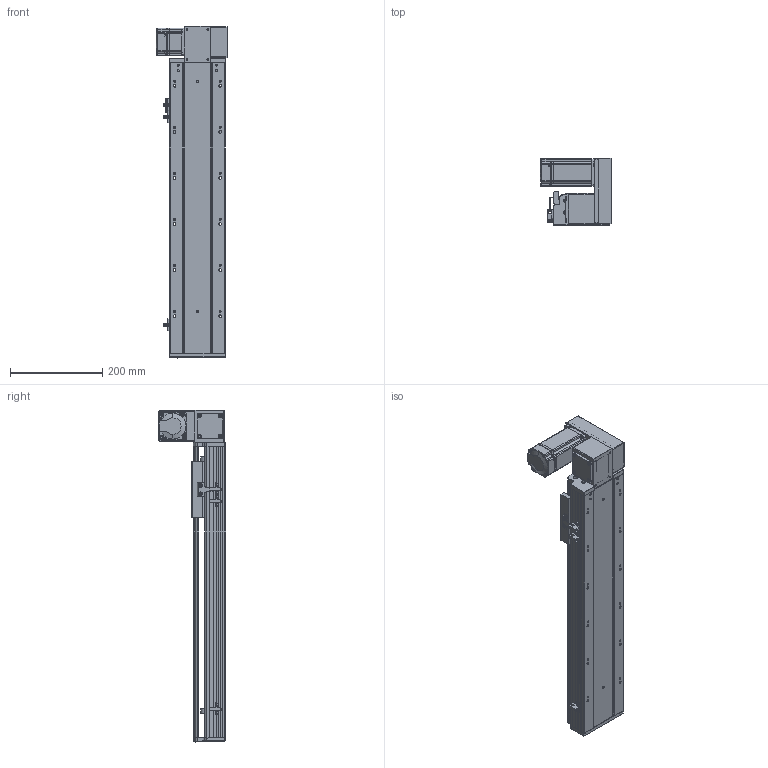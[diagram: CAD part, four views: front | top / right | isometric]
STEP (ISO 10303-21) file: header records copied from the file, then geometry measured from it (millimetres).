
FILE_DESCRIPTION (( 'STEP AP203' ), '1' );
FILE_NAME ('RY120-T-300-UR.SLDASM_400.step', '2021-03-01T05:55:39', ( '盈信电脑' ), ( '东莞市道滘镇水果街19号' ), 'SwSTEP 2.0', 'SolidWorks 2012', '' );
FILE_SCHEMA (( 'CONFIG_CONTROL_DESIGN' ));
Length unit declared in the file: millimetre
Products named in the file (17): RY120-T-300-UR.SLDASM_400; RY120-T蹟翐M4; 15; RY120-T主同步轮轴承压盖; RY120-T萇儂欶; 滅袉蝶18-10; RY120-T萇儂假蚾啣; RY120-T翋肮祭盓傅釱; RY120-T翋肮祭謫裔啣; 覜茼ん672; RY120-T肮祭湍揤踡輸2; RY120-T肮祭湍揤踡輸1; RY120外置感应片(140共用）; RY120綴裔啣; RY120-T-300-UR倰第奻裔啣_400; RY120肮祭湍臏賑輸; RY120-T-300-UR倰第菁釱_400
Assembly tree (22 placements, depth 2):
  RY120-T-300-UR.SLDASM_400
    RY120-T-300-UR倰第菁釱_400
    RY120-T-300-UR倰第奻裔啣_400
    RY120肮祭湍臏賑輸
    RY120綴裔啣
    覜茼ん672  x3
    RY120外置感应片(140共用）
    RY120-T肮祭湍揤踡輸1
    RY120-T肮祭湍揤踡輸2
    RY120-T翋肮祭盓傅釱
    RY120-T萇儂假蚾啣
    滅袉蝶18-10  x2
    RY120-T翋肮祭謫裔啣
    15
    RY120-T蹟翐M4  x4
    RY120-T萇儂欶
    RY120-T主同步轮轴承压盖
Bounding box: 155.5 x 146 x 721 mm (x, y, z)
Volume: 2301526.8 mm3; surface area: 830558.6 mm2
Topology: 23 solids, 23 shells, 2698 faces, 7348 edges, 4732 vertices
Faces by surface type: plane 1402, cylinder 996, cone 211, bspline 89
Entity records: 85567 total; most frequent: CARTESIAN_POINT 21566, ORIENTED_EDGE 13192, DIRECTION 12470, EDGE_CURVE 6596, VERTEX_POINT 4319, LINE 4184, VECTOR 4184, AXIS2_PLACEMENT_3D 4143
